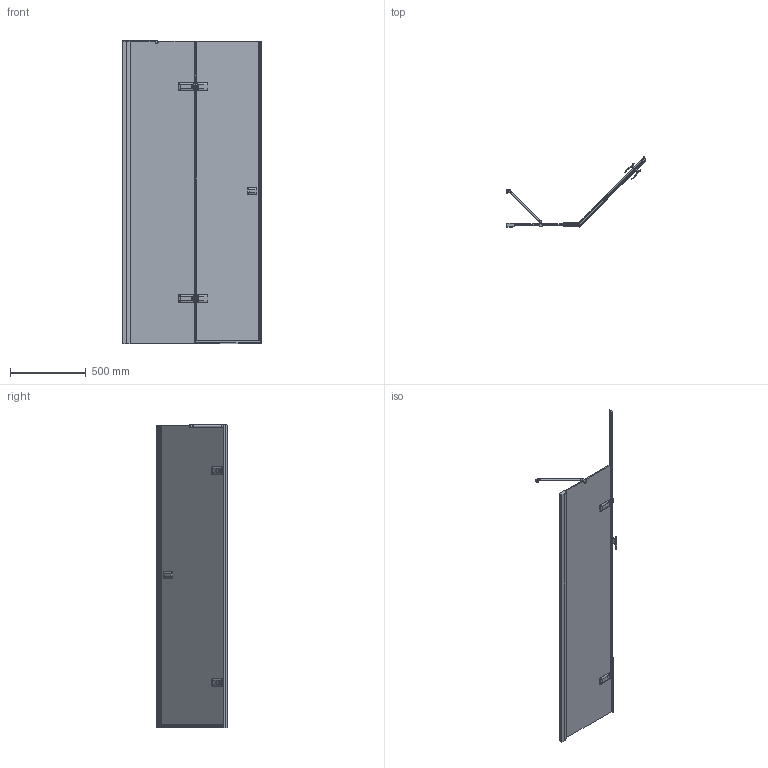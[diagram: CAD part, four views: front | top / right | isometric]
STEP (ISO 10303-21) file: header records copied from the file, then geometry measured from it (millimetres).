
FILE_DESCRIPTION(/* description */ (''),/* implementation_level */ '2;1');
FILE_NAME(/* name */ 'E:\Работа\Сергей\Душевые кабинки\! Работа\TREND DOOR GK-862AGP135TWO-03\TREND DOOR GK-862AGP135TWO-03 левая модель\TREND DOOR GK-862AGP135TWO-03 ЛЕВАЯ-3D.stp',/* time_stamp */ '2017-08-27T13:08:25+03:00',/* author */ ('PC'),/* organization */ (''),/* preprocessor_version */ 'ST-DEVELOPER v15.2',/* originating_system */ 'Autodesk Inventor 2014',/* authorisation */ '');
FILE_SCHEMA (('AUTOMOTIVE_DESIGN { 1 0 10303 214 3 1 1 }'));
Products named in the file (1): TREND DOOR GK-862AGP135TWO-03 \X2\041B041504120410042F
\X0\-3D
Bounding box: 916.29 x 464.68 x 2009.49 mm (x, y, z)
Volume: 17569031.7 mm3; surface area: 4752278.8 mm2
Topology: 5 solids, 5 shells, 1234 faces, 3339 edges, 2088 vertices
Faces by surface type: plane 737, cylinder 314, bspline 136, torus 21, cone 18, sphere 8
Full cylindrical faces by diameter (mm): 4 x3, 6 x2, 9 x8, 13 x2, 15 x1, 20 x2, 26 x1
Entity records: 55415 total; most frequent: CARTESIAN_POINT 23941, ORIENTED_EDGE 6502, DIRECTION 6087, EDGE_CURVE 3251, VERTEX_POINT 2071, AXIS2_PLACEMENT_3D 2042, LINE 2003, VECTOR 2003
